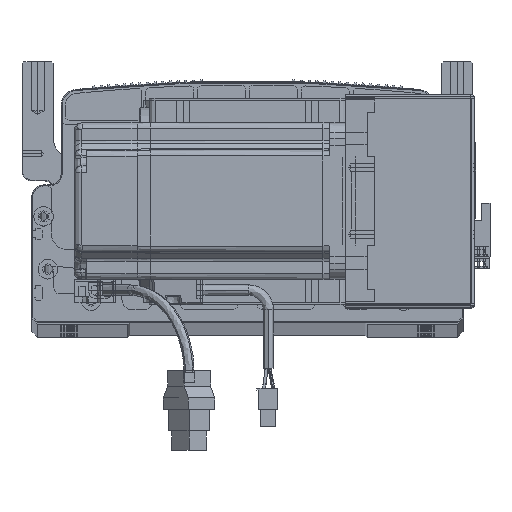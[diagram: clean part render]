
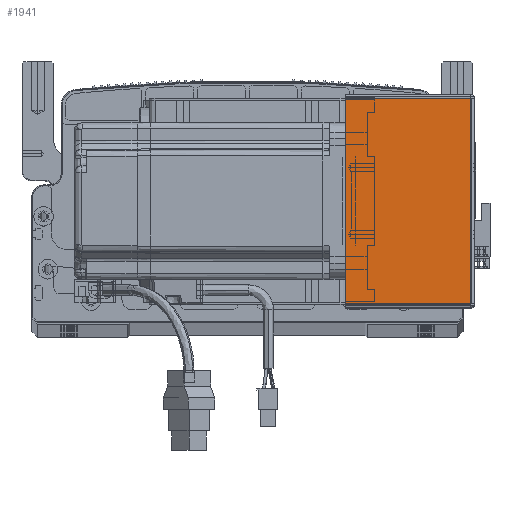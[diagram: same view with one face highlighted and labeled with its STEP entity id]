
A CAD part, top view. The second image highlights one B-rep face of the part: STEP entity #1941.
In plain terms, the highlighted planar face has unit normal (0, 0, 1) as drawn and (0, 0, -1) by its records, which use the part's own axes.
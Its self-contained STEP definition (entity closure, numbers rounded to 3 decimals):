
#1360 = ORIENTED_EDGE ( 'NONE', *, *, #76193, .F. ) ;
#1941 = ADVANCED_FACE ( 'NONE', ( #27203 ), #82734, .F. ) ;
#2442 = DIRECTION ( 'NONE',  ( 1., 0., 0. ) ) ;
#3337 = DIRECTION ( 'NONE',  ( 0., -1., 0. ) ) ;
#5926 = CARTESIAN_POINT ( 'NONE',  ( 0., 0.707, -205.5 ) ) ;
#6775 = CARTESIAN_POINT ( 'NONE',  ( 64.5, 105.293, -205.5 ) ) ;
#8024 = VECTOR ( 'NONE', #22021, 1000. ) ;
#13616 = LINE ( 'NONE', #78798, #32624 ) ;
#14053 = CARTESIAN_POINT ( 'NONE',  ( 0.737, 0.707, -205.5 ) ) ;
#14248 = LINE ( 'NONE', #62036, #8024 ) ;
#22021 = DIRECTION ( 'NONE',  ( 1., 0., 0. ) ) ;
#25801 = CARTESIAN_POINT ( 'NONE',  ( 64.5, 0.707, -205.5 ) ) ;
#27203 = FACE_OUTER_BOUND ( 'NONE', #81216, .T. ) ;
#30172 = VERTEX_POINT ( 'NONE', #6775 ) ;
#32624 = VECTOR ( 'NONE', #94692, 1000. ) ;
#35134 = CARTESIAN_POINT ( 'NONE',  ( 64.5, 0., -205.5 ) ) ;
#36200 = AXIS2_PLACEMENT_3D ( 'NONE', #74985, #42750, #2442 ) ;
#42044 = LINE ( 'NONE', #5926, #81341 ) ;
#42750 = DIRECTION ( 'NONE',  ( 0., 0., 1. ) ) ;
#46039 = VECTOR ( 'NONE', #3337, 1000. ) ;
#48567 = EDGE_CURVE ( 'NONE', #30172, #101140, #49776, .T. ) ;
#49776 = LINE ( 'NONE', #35134, #46039 ) ;
#57924 = EDGE_CURVE ( 'NONE', #63554, #101140, #42044, .T. ) ;
#62036 = CARTESIAN_POINT ( 'NONE',  ( 0., 105.293, -205.5 ) ) ;
#63554 = VERTEX_POINT ( 'NONE', #14053 ) ;
#70332 = DIRECTION ( 'NONE',  ( 1., 0., 0. ) ) ;
#71984 = ORIENTED_EDGE ( 'NONE', *, *, #57924, .F. ) ;
#74985 = CARTESIAN_POINT ( 'NONE',  ( 0., 0., -205.5 ) ) ;
#76193 = EDGE_CURVE ( 'NONE', #96378, #63554, #13616, .T. ) ;
#76900 = ORIENTED_EDGE ( 'NONE', *, *, #83939, .T. ) ;
#78798 = CARTESIAN_POINT ( 'NONE',  ( 0.737, 0., -205.5 ) ) ;
#81216 = EDGE_LOOP ( 'NONE', ( #1360, #76900, #93534, #71984 ) ) ;
#81252 = CARTESIAN_POINT ( 'NONE',  ( 0.737, 105.293, -205.5 ) ) ;
#81341 = VECTOR ( 'NONE', #70332, 1000. ) ;
#82734 = PLANE ( 'NONE',  #36200 ) ;
#83939 = EDGE_CURVE ( 'NONE', #96378, #30172, #14248, .T. ) ;
#93534 = ORIENTED_EDGE ( 'NONE', *, *, #48567, .T. ) ;
#94692 = DIRECTION ( 'NONE',  ( 0., -1., 0. ) ) ;
#96378 = VERTEX_POINT ( 'NONE', #81252 ) ;
#101140 = VERTEX_POINT ( 'NONE', #25801 ) ;
